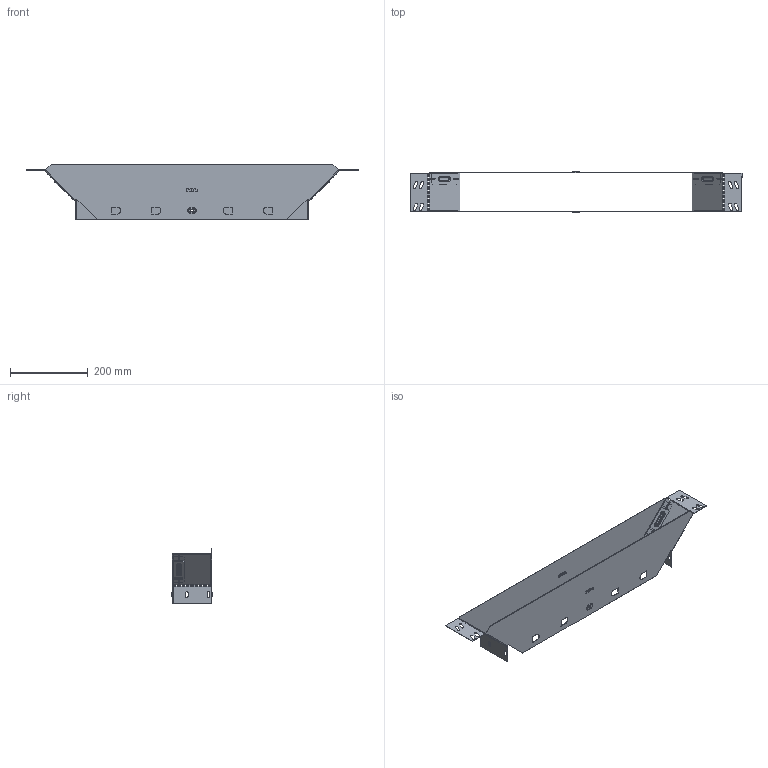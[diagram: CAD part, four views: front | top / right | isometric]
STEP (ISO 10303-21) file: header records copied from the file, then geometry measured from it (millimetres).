
FILE_DESCRIPTION (( 'STEP AP214' ), '1' );
FILE_NAME ('tn10060008_捘.STEP', '2019-06-10T08:02:06', ( '砐錪賧瘔蠈錪 Windows' ), ( '' ), 'SwSTEP 2.0', 'SolidWorks 2018', '' );
FILE_SCHEMA (( 'AUTOMOTIVE_DESIGN' ));
Length unit declared in the file: millimetre
Products named in the file (1): tn10060008_捘
Bounding box: 856.02 x 103.8 x 144 mm (x, y, z)
Volume: 174561.2 mm3; surface area: 441496.7 mm2
Topology: 2 solids, 2 shells, 714 faces, 2042 edges, 1292 vertices
Faces by surface type: plane 432, cylinder 216, torus 48, bspline 18
Entity records: 24117 total; most frequent: CARTESIAN_POINT 5007, ORIENTED_EDGE 4084, DIRECTION 3904, EDGE_CURVE 2042, LINE 1502, VECTOR 1502, VERTEX_POINT 1292, AXIS2_PLACEMENT_3D 1201
